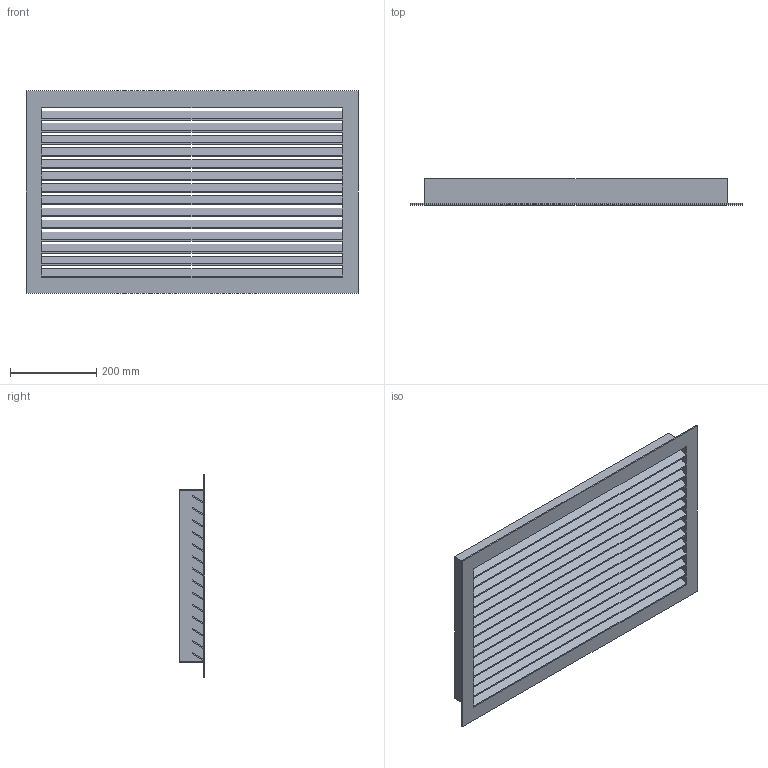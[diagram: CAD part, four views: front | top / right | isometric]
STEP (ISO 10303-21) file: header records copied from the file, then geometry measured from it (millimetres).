
FILE_DESCRIPTION(/* description */ (''),/* implementation_level */ '2;1');
FILE_NAME(/* name */ 'Z:\Output\WSG_70-40-00114-003.stp',/* time_stamp */ '2017-11-10T11:53:31+01:00',/* author */ ('pareshmistry'),/* organization */ (''),/* preprocessor_version */ 'ST-DEVELOPER v16.5',/* originating_system */ 'Autodesk Inventor 2017',/* authorisation */ '');
FILE_SCHEMA (('AUTOMOTIVE_DESIGN { 1 0 10303 214 3 1 1 }'));
Length unit declared in the file: millimetre
Products named in the file (1): WSG-1
Bounding box: 770 x 60 x 470 mm (x, y, z)
Volume: 1516752.8 mm3; surface area: 1170564 mm2
Topology: 1 solids, 1 shells, 58 faces, 204 edges, 136 vertices
Faces by surface type: plane 58
Entity records: 2238 total; most frequent: ORIENTED_EDGE 410, CARTESIAN_POINT 399, DIRECTION 322, LINE 204, VECTOR 204, EDGE_CURVE 204, VERTEX_POINT 136, EDGE_LOOP 75
